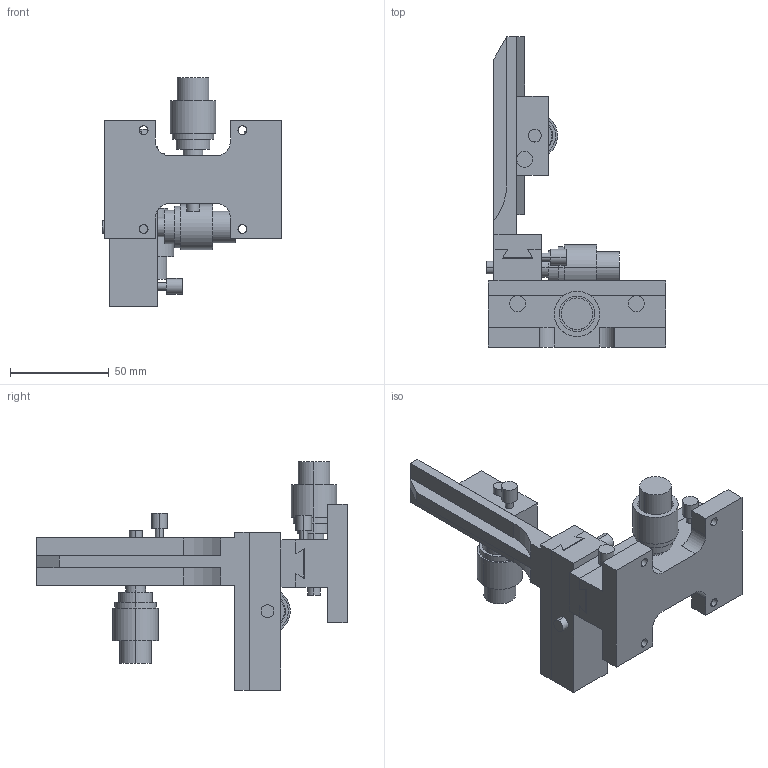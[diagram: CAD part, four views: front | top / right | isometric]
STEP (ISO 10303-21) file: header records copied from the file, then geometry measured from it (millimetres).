
FILE_DESCRIPTION (( 'STEP AP203' ), '1' );
FILE_NAME ('LT-211S-1CL.STEP', '2008-04-02T01:33:35', ( '' ), ( '' ), 'SwSTEP 2.0', 'SolidWorks 2007', '' );
FILE_SCHEMA (( 'CONFIG_CONTROL_DESIGN' ));
Length unit declared in the file: millimetre
Products named in the file (5): LT-211S-1CL-2_蹬怮椔; LT-211S-1CL; LT-211S-1CL-1_蹬怮椔; LT-211S-1CL-3_蹬怮椔; LT-211S-1CL-4_蹬怮椔
Assembly tree (4 placements, depth 2):
  LT-211S-1CL
    LT-211S-1CL-1_蹬怮椔
    LT-211S-1CL-4_蹬怮椔
    LT-211S-1CL-3_蹬怮椔
    LT-211S-1CL-2_蹬怮椔
Bounding box: 91 x 157 x 115.5 mm (x, y, z)
Volume: 201894 mm3; surface area: 69973 mm2
Topology: 4 solids, 19 shells, 309 faces, 676 edges, 448 vertices
Faces by surface type: cylinder 154, plane 151, cone 4
Entity records: 9203 total; most frequent: DIRECTION 1598, CARTESIAN_POINT 1558, ORIENTED_EDGE 1352, EDGE_CURVE 676, AXIS2_PLACEMENT_3D 616, VERTEX_POINT 448, EDGE_LOOP 378, LINE 366
